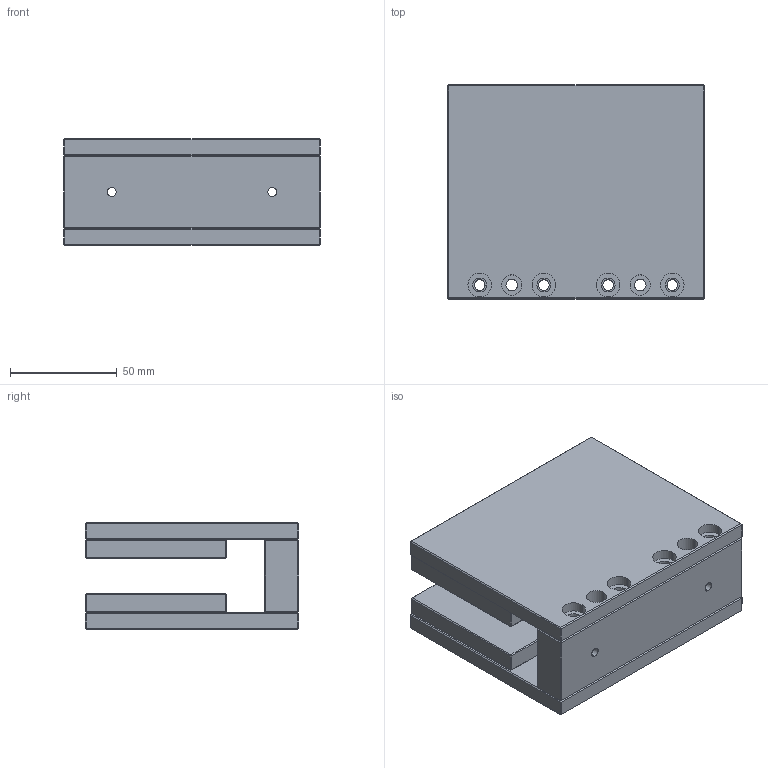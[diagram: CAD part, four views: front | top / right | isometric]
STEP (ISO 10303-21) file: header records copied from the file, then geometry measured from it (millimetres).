
FILE_DESCRIPTION (( 'STEP AP214' ), '1' );
FILE_NAME ('JKA2-120.STEP', '2025-09-05T08:47:08', ( '' ), ( '' ), 'SwSTEP 2.0', 'SolidWorks 2016', '' );
FILE_SCHEMA (( 'AUTOMOTIVE_DESIGN' ));
Length unit declared in the file: millimetre
Products named in the file (1): JKA2-120
Bounding box: 120 x 100 x 50 mm (x, y, z)
Volume: 378225.3 mm3; surface area: 114641.1 mm2
Topology: 11 solids, 11 shells, 334 faces, 696 edges, 392 vertices
Faces by surface type: plane 270, cylinder 64
Entity records: 12382 total; most frequent: CARTESIAN_POINT 1519, DIRECTION 1446, ORIENTED_EDGE 1392, EDGE_CURVE 696, LINE 552, VECTOR 552, AXIS2_PLACEMENT_3D 447, VERTEX_POINT 392
